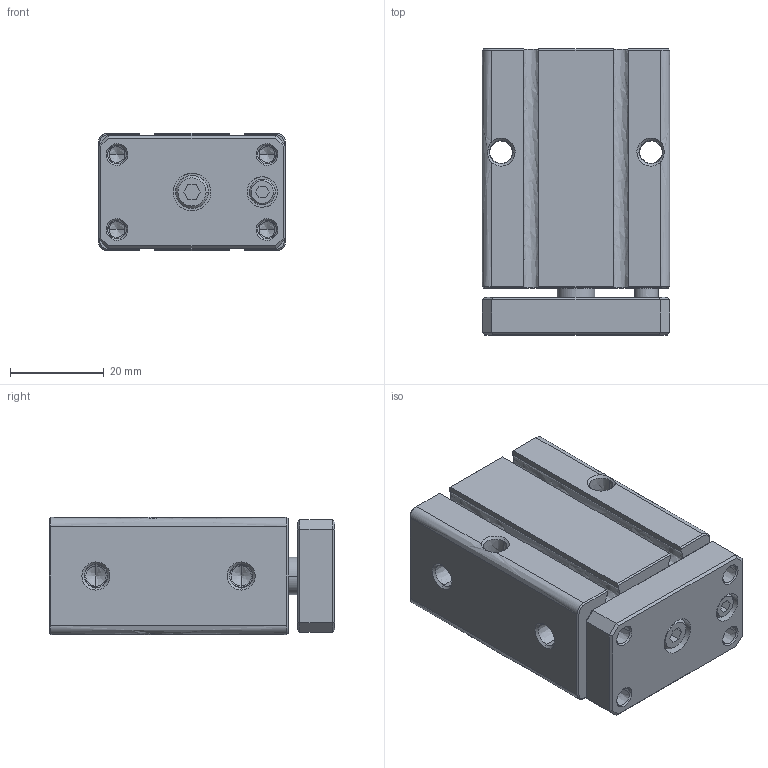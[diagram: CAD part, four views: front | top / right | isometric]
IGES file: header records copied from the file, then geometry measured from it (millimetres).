
Start section:  PTC IGES file: 130710_ncon-m15w.igs
Global section: file name: 130710_ncon-m15w.igs; native system: Pro/ENGINEER by Parametric Technology Corporation; preprocessor: 2004090; author: KAIHATSU01; organization: Unknown; date: 061017.091945; units: millimetre
Bounding box: 40 x 61 x 25 mm (x, y, z)
Volume: 53644.7 mm3; surface area: 14358.3 mm2
Topology: 1 solids, 1 shells, 182 faces, 436 edges, 254 vertices
Faces by surface type: bspline 182
